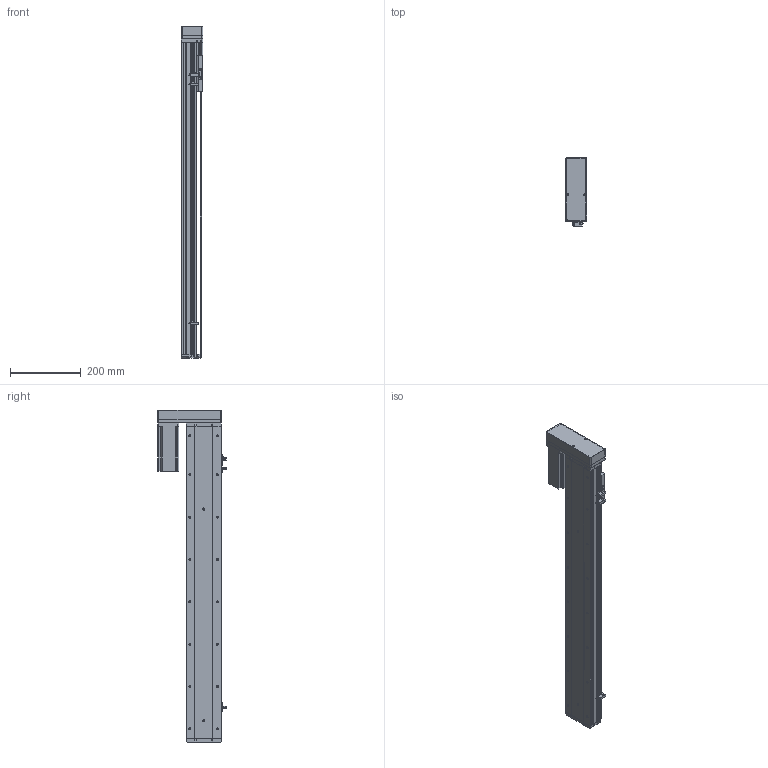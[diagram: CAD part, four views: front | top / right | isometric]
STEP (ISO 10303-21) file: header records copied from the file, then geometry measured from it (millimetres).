
FILE_DESCRIPTION (( 'STEP AP214' ), '1' );
FILE_NAME ('KSD100S-S700-ML-CM.STEP', '2019-08-30T06:18:48', ( '微软用户' ), ( '微软中国' ), 'SwSTEP 2.0', 'SolidWorks 2014', '' );
FILE_SCHEMA (( 'AUTOMOTIVE_DESIGN' ));
Length unit declared in the file: millimetre
Products named in the file (11): 台达ECMA－C20604AS伺服电机; 100宽马达安装板连板左右折丝杆; U倰嫖萇EEㄜSX672; 覜茼え100遵圉猾敕; 100宽防尘板丝杆700行程; 100遵鎮湛假蚾啣; 100宽滚珠螺姆安装板半封闭; 100遵傷啣; 100宽底板半封闭丝杆700行程; KSD100S-S700-ML-CM; 悵誘欶酘衵殏
Assembly tree (12 placements, depth 2):
  KSD100S-S700-ML-CM
    100宽底板半封闭丝杆700行程
    100遵傷啣
    100宽滚珠螺姆安装板半封闭
    100遵鎮湛假蚾啣
    100宽防尘板丝杆700行程
    覜茼え100遵圉猾敕
    U倰嫖萇EEㄜSX672  x3
    100宽马达安装板连板左右折丝杆
    台达ECMA－C20604AS伺服电机
    悵誘欶酘衵殏
Bounding box: 62 x 193.7 x 940.5 mm (x, y, z)
Volume: 2352622.7 mm3; surface area: 755716.2 mm2
Topology: 13 solids, 13 shells, 1275 faces, 3590 edges, 2271 vertices
Faces by surface type: cylinder 628, plane 508, cone 139
Entity records: 44363 total; most frequent: CARTESIAN_POINT 8631, DIRECTION 6049, ORIENTED_EDGE 5808, EDGE_CURVE 2904, AXIS2_PLACEMENT_3D 2205, VERTEX_POINT 1895, VECTOR 1639, LINE 1639
